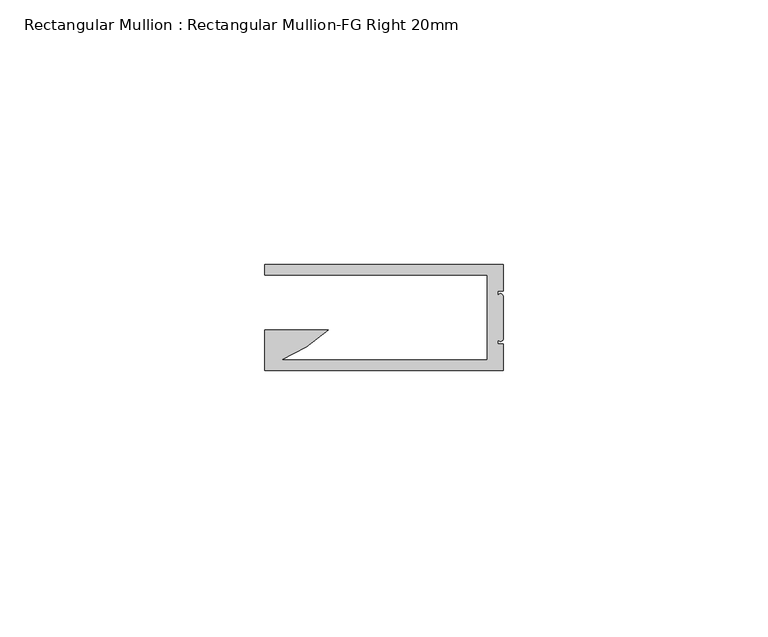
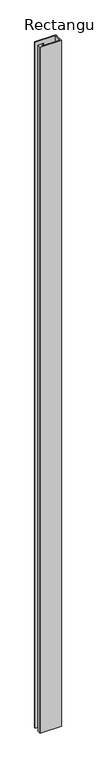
"""IFC4 building model written with IfcOpenShell, lengths in millimetres: member geometry, Rectangular Mullion : Rectangular Mullion-FG Right 20mm."""

from ifc_helpers import new_model, si_unit, frame, origin, place, context, project, spatial, circle_curve, source, transform, mapped, element, save
from ifc_brep_helpers import plane_surface, cylinder_surface, advanced_brep


def rectangular_mullion_rectangular_mullion_fg_right_20mm_ced86535(model_context):
    return source(origin(), model_context, "Body", "AdvancedBrep", [
        advanced_brep(
        [(0.0, -5.002, 0.0), (0.0, -0.002, 0.0), (-45.0, -0.002, 0.0), (-45.0, -2.002, 0.0), (-3.0, -2.002, 0.0), (-3.0, -18.002, 0.0), (-41.8651614, -18.002, 0.0), (-33.0474856, -12.382, 0.0), (-45.0, -12.382, 0.0), (-45.0, -18.002, 0.0), (-45.0, -20.002, 0.0), (0.0, -20.002, 0.0), (0.0, -15.002, 0.0), (-1.0, -15.002, 0.0), (-1.0, -14.002, 0.0), (0.0, -14.002, 0.0), (0.0, -6.002, 0.0), (-1.0, -6.002, 0.0), (-1.0, -5.002, 0.0), (0.0, -5.002, -1541.3454707), (-1.0, -5.002, -1541.3454707), (-1.0, -6.002, -1541.3454707), (0.0, -6.002, -1541.3454707), (0.0, -14.002, -1541.3454707), (-1.0, -14.002, -1541.3454707), (-1.0, -15.002, -1541.3454707), (0.0, -15.002, -1541.3454707), (0.0, -20.002, -1541.3454707), (-45.0, -20.002, -1541.3454707), (-45.0, -18.002, -1541.3454707), (-45.0, -12.382, -1541.3454707), (-33.0474856, -12.382, -1541.3454707), (-41.8651614, -18.002, -1541.3454707), (-3.0, -18.002, -1541.3454707), (-3.0, -2.002, -1541.3454707), (-45.0, -2.002, -1541.3454707), (-45.0, -0.002, -1541.3454707), (0.0, -0.002, -1541.3454707)],
        [
            (0, 1),
            (1, 2),
            (2, 3),
            (3, 4),
            (4, 5),
            (5, 6),
            (6, 7, circle_curve(frame((-52.4160523, 8.2795369, 0.0), z_axis=(0.0, 0.0, 1.0), x_axis=(1.0, 0.0, 0.0)), 28.3203192)),
            (7, 8),
            (8, 9),
            (9, 10),
            (10, 11),
            (11, 12),
            (12, 13),
            (13, 14),
            (14, 15, circle_curve(frame((-0.5, -14.002, 0.0), z_axis=(0.0, 0.0, 1.0), x_axis=(1.0, 0.0, 0.0)), 0.5)),
            (15, 16),
            (16, 17, circle_curve(frame((-0.5, -6.002, 0.0), z_axis=(0.0, 0.0, 1.0), x_axis=(1.0, 0.0, 0.0)), 0.5)),
            (17, 18),
            (18, 0),
            (19, 20),
            (20, 21),
            (21, 22, circle_curve(frame((-0.5, -6.002, -1541.3454707), z_axis=(0.0, 0.0, -1.0), x_axis=(1.0, 0.0, 0.0)), 0.5)),
            (22, 23),
            (23, 24, circle_curve(frame((-0.5, -14.002, -1541.3454707), z_axis=(0.0, 0.0, -1.0), x_axis=(1.0, 0.0, 0.0)), 0.5)),
            (24, 25),
            (25, 26),
            (26, 27),
            (27, 28),
            (28, 29),
            (29, 30),
            (30, 31),
            (31, 32, circle_curve(frame((-52.4160523, 8.2795369, -1541.3454707), z_axis=(0.0, 0.0, -1.0), x_axis=(1.0, 0.0, 0.0)), 28.3203192)),
            (32, 33),
            (33, 34),
            (34, 35),
            (35, 36),
            (36, 37),
            (37, 19),
            (0, 19),
            (37, 1),
            (36, 2),
            (35, 3),
            (34, 4),
            (33, 5),
            (32, 6),
            (31, 7),
            (30, 8),
            (29, 9),
            (28, 10),
            (27, 11),
            (26, 12),
            (25, 13),
            (24, 14),
            (23, 15),
            (22, 16),
            (21, 17),
            (20, 18),
        ],
        [
            plane_surface(frame((0.0, -49.2451013, 0.0), z_axis=(0.0, 0.0, 1.0), x_axis=(-1.0, 0.0, 0.0))),
            plane_surface(frame((0.0, -49.2451013, -1541.3454707), z_axis=(0.0, 0.0, -1.0), x_axis=(-1.0, 0.0, 0.0))),
            plane_surface(frame((0.0, -5.002, 0.0), z_axis=(1.0, 0.0, 0.0), x_axis=(0.0, 0.0, -1.0))),
            plane_surface(frame((0.0, -0.002, 0.0), z_axis=(0.0, 1.0, 0.0), x_axis=(0.0, 0.0, -1.0))),
            plane_surface(frame((-45.0, -0.002, 0.0), z_axis=(-1.0, 0.0, 0.0), x_axis=(0.0, 0.0, -1.0))),
            plane_surface(frame((-45.0, -2.002, 0.0), z_axis=(0.0, -1.0, 0.0), x_axis=(0.0, 0.0, -1.0))),
            plane_surface(frame((-3.0, -2.002, 0.0), z_axis=(-1.0, 0.0, 0.0), x_axis=(0.0, 0.0, -1.0))),
            plane_surface(frame((-3.0, -18.002, 0.0), z_axis=(0.0, 1.0, 0.0), x_axis=(0.0, 0.0, -1.0))),
            cylinder_surface(frame((-52.4160523, 8.2795369, 0.0), z_axis=(0.0, 0.0, 1.0), x_axis=(1.0, 0.0, 0.0)), 28.3203192),
            plane_surface(frame((-33.0474856, -12.382, 0.0), z_axis=(0.0, 1.0, 0.0), x_axis=(0.0, 0.0, -1.0))),
            plane_surface(frame((-45.0, -12.382, 0.0), z_axis=(-1.0, 0.0, 0.0), x_axis=(0.0, 0.0, -1.0))),
            plane_surface(frame((-45.0, -18.002, 0.0), z_axis=(-1.0, 0.0, 0.0), x_axis=(0.0, 0.0, -1.0))),
            plane_surface(frame((-45.0, -20.002, 0.0), z_axis=(0.0, -1.0, 0.0), x_axis=(0.0, 0.0, -1.0))),
            plane_surface(frame((0.0, -20.002, 0.0), z_axis=(1.0, 0.0, 0.0), x_axis=(0.0, 0.0, -1.0))),
            plane_surface(frame((0.0, -15.002, 0.0), z_axis=(0.0, 1.0, 0.0), x_axis=(0.0, 0.0, -1.0))),
            plane_surface(frame((-1.0, -15.002, 0.0), z_axis=(1.0, 0.0, 0.0), x_axis=(0.0, 0.0, -1.0))),
            cylinder_surface(frame((-0.5, -14.002, 0.0), z_axis=(0.0, 0.0, 1.0), x_axis=(1.0, 0.0, 0.0)), 0.5),
            plane_surface(frame((0.0, -14.002, 0.0), z_axis=(1.0, 0.0, 0.0), x_axis=(0.0, 0.0, -1.0))),
            cylinder_surface(frame((-0.5, -6.002, 0.0), z_axis=(0.0, 0.0, 1.0), x_axis=(1.0, 0.0, 0.0)), 0.5),
            plane_surface(frame((-1.0, -6.002, 0.0), z_axis=(1.0, 0.0, 0.0), x_axis=(0.0, 0.0, -1.0))),
            plane_surface(frame((-1.0, -5.002, 0.0), z_axis=(0.0, -1.0, 0.0), x_axis=(0.0, 0.0, -1.0))),
        ],
        [
            (0, [[1, 2, 3, 4, 5, 6, 7, 8, 9, 10, 11, 12, 13, 14, 15, 16, 17, 18, 19]]),
            (1, [[20, 21, 22, 23, 24, 25, 26, 27, 28, 29, 30, 31, 32, 33, 34, 35, 36, 37, 38]]),
            (2, [[-1, 39, -38, 40]]),
            (3, [[-2, -40, -37, 41]]),
            (4, [[-3, -41, -36, 42]]),
            (5, [[-4, -42, -35, 43]]),
            (6, [[-5, -43, -34, 44]]),
            (7, [[-6, -44, -33, 45]]),
            (8, [[-7, -45, -32, 46]]),
            (9, [[-8, -46, -31, 47]]),
            (10, [[-9, -47, -30, 48]]),
            (11, [[-10, -48, -29, 49]]),
            (12, [[-11, -49, -28, 50]]),
            (13, [[-12, -50, -27, 51]]),
            (14, [[-13, -51, -26, 52]]),
            (15, [[-14, -52, -25, 53]]),
            (16, [[-15, -53, -24, 54]]),
            (17, [[-16, -54, -23, 55]]),
            (18, [[-17, -55, -22, 56]]),
            (19, [[-18, -56, -21, 57]]),
            (20, [[-19, -57, -20, -39]]),
        ],
    ),
    ])


if __name__ == "__main__":
    model = new_model("IFC4")
    model_context = context("Model", 3, world=origin())
    ifc_project = project(units=[si_unit("LENGTHUNIT", "METRE", prefix="MILLI")], contexts=[model_context])
    site = spatial("IfcSite", under=ifc_project)
    building = spatial("IfcBuilding", under=site)
    placement = place(None, origin())
    rectangular_mullion_rectangular_mullion_fg_right_20mm_shape = rectangular_mullion_rectangular_mullion_fg_right_20mm_ced86535(model_context)
    element("IfcMember", 1, ObjectType="Rectangular Mullion : Rectangular Mullion-FG Right 20mm", at=placement, inside=building, context=model_context, shape_type="MappedRepresentation", body=[
        mapped(rectangular_mullion_rectangular_mullion_fg_right_20mm_shape, transform((0.0, 0.0, 0.0), x_axis=(1.0, 0.0, 0.0), y_axis=(0.0, 1.0, 0.0), z_axis=(0.0, 0.0, 1.0))),
    ])
    save(model, "model.ifc")
